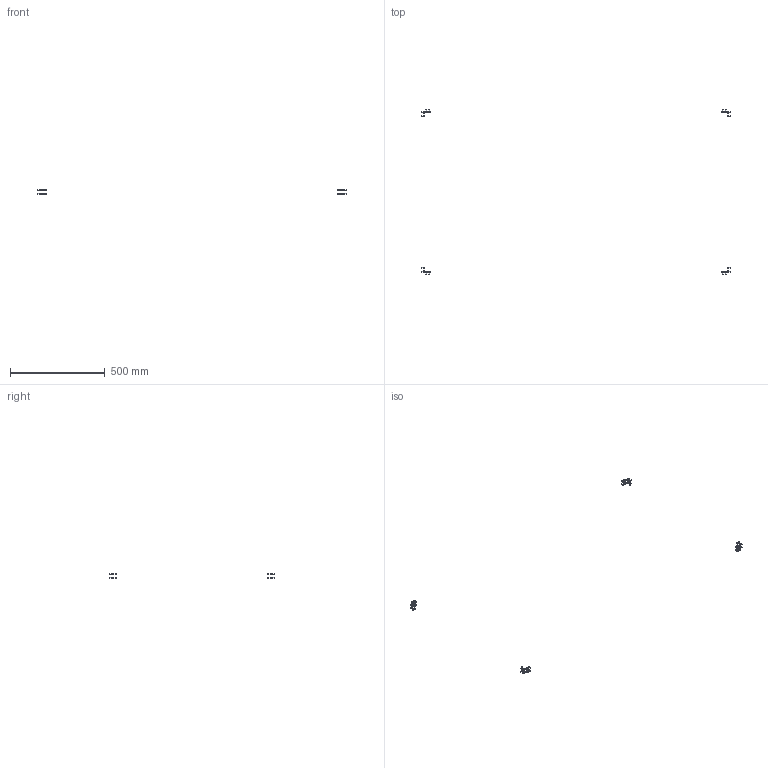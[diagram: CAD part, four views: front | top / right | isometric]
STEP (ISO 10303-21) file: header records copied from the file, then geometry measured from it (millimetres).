
FILE_DESCRIPTION(/* description */ (''),/* implementation_level */ '2;1');
FILE_NAME(/* name */ 'FRAME-~1',/* time_stamp */ '2014-02-14T19:30:52+01:00',/* author */ (''),/* organization */ (''),/* preprocessor_version */ 'ST-DEVELOPER v14',/* originating_system */ '',/* authorisation */ '');
FILE_SCHEMA (('AUTOMOTIVE_DESIGN'));
Length unit declared in the file: millimetre
Products named in the file (2): Document; screw DIN912-like, M5x10
Assembly tree (16 placements, depth 2):
  Document
    screw DIN912-like, M5x10  x16
Bounding box: 1630 x 870 x 28.5 mm (x, y, z)
Volume: 14026.8 mm3; surface area: 13641.6 mm2
Topology: 32 solids, 32 shells, 800 faces, 1792 edges, 1056 vertices
Faces by surface type: plane 480, bspline 320
Entity records: 23221 total; most frequent: CARTESIAN_POINT 10695, B_SPLINE_CURVE_WITH_KNOTS 2142, ORIENTED_EDGE 1836, PCURVE 1836, DEFINITIONAL_REPRESENTATION 1836, SURFACE_CURVE 918, EDGE_CURVE 918, VERTEX_POINT 561
